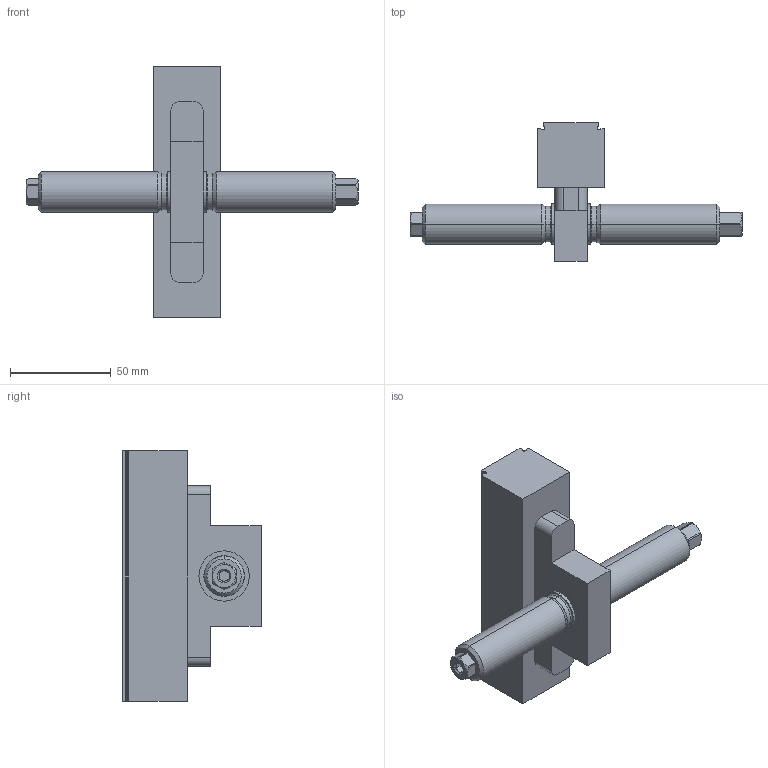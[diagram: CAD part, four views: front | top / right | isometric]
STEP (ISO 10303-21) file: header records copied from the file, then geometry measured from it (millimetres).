
FILE_DESCRIPTION (( 'STEP AP214' ), '1' );
FILE_NAME ('47155-TG27.STEP', '2023-02-20T08:59:08', ( '' ), ( '' ), 'SwSTEP 2.0', 'SolidWorks 2021', '' );
FILE_SCHEMA (( 'AUTOMOTIVE_DESIGN' ));
Length unit declared in the file: millimetre
Products named in the file (1): 47155-TG27
Bounding box: 165 x 68.8 x 124.6 mm (x, y, z)
Volume: 208147.2 mm3; surface area: 35907.1 mm2
Topology: 2 solids, 2 shells, 118 faces, 289 edges, 184 vertices
Faces by surface type: plane 57, cylinder 37, cone 16, torus 8
Entity records: 5026 total; most frequent: CARTESIAN_POINT 852, DIRECTION 607, ORIENTED_EDGE 578, EDGE_CURVE 289, AXIS2_PLACEMENT_3D 223, VERTEX_POINT 184, VECTOR 161, LINE 161
